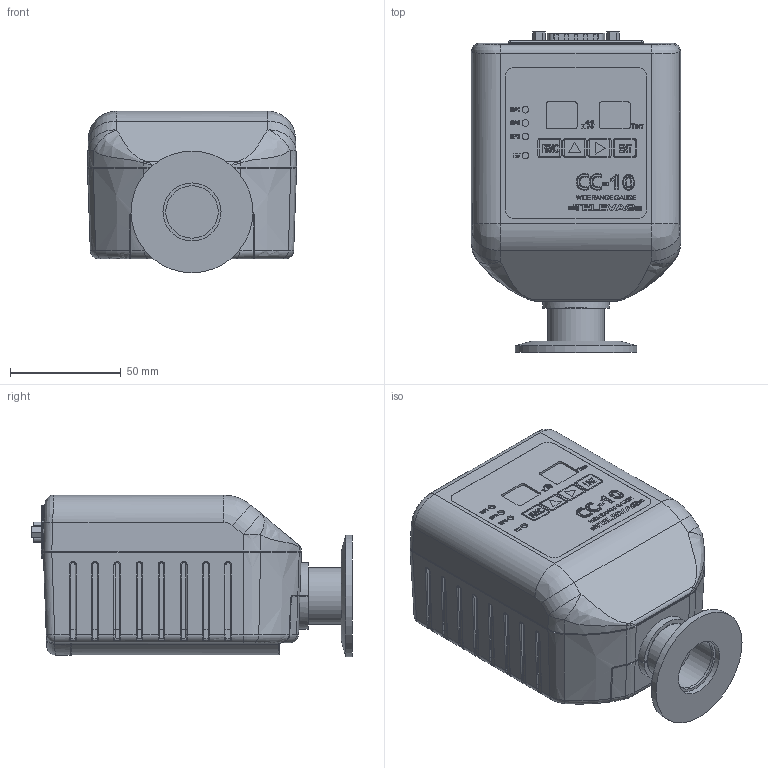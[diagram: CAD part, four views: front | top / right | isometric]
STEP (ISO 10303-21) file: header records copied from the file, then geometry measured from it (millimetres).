
FILE_DESCRIPTION (( 'STEP AP214' ), '1' );
FILE_NAME ('2-7980-032 (CC-10_KF40).STEP', '2023-06-15T16:58:10', ( '' ), ( '' ), 'SwSTEP 2.0', 'SolidWorks 2022', '' );
FILE_SCHEMA (( 'AUTOMOTIVE_DESIGN' ));
Length unit declared in the file: inch
Products named in the file (1): 2-7980-032 (CC-10_KF40)
Bounding box: 94.28 x 144.63 x 72.83 mm (x, y, z)
Volume: 682873.8 mm3; surface area: 62245.5 mm2
Topology: 9 solids, 9 shells, 1938 faces, 4976 edges, 3209 vertices
Faces by surface type: plane 931, cylinder 490, bspline 355, torus 97, cone 55, sphere 10
Full cylindrical faces by diameter (mm): 2.845 x14, 3 x4, 5.359 x2, 6 x2, 23.622 x3, 25.4 x3, 26.162 x1, 31.75 x1, 54.864 x1
Entity records: 120831 total; most frequent: CARTESIAN_POINT 52273, ORIENTED_EDGE 9754, DIRECTION 7661, EDGE_CURVE 4877, VERTEX_POINT 3169, LINE 2825, VECTOR 2825, AXIS2_PLACEMENT_3D 2418
